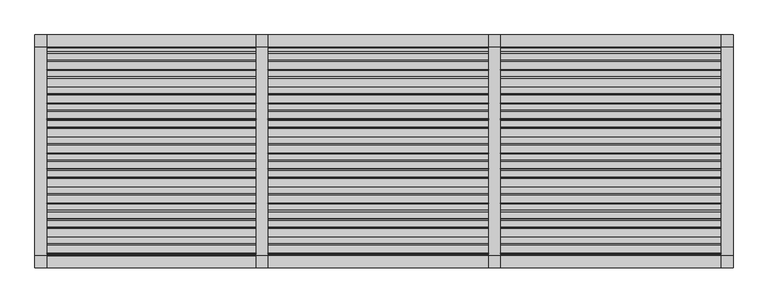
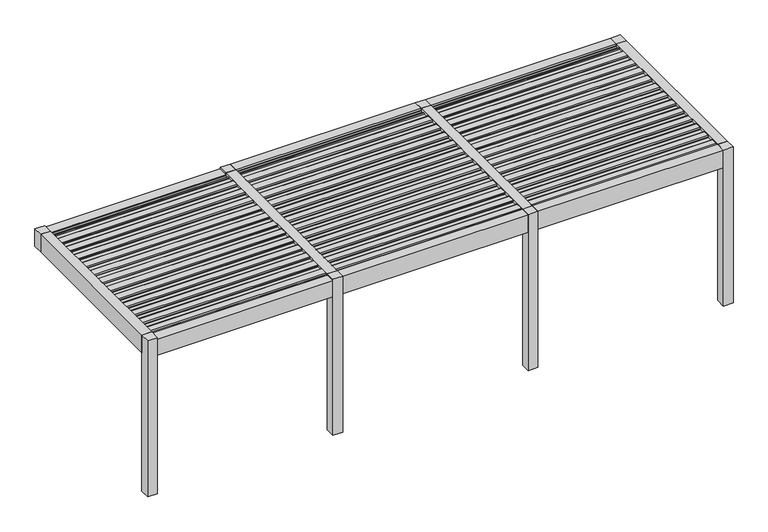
"""IFC4 building model written with IfcOpenShell, lengths in millimetres: proxy geometry, Renson_Amani_Patio_Cover : Renson_Amani_Patio_Cover."""

from ifc_helpers import new_model, si_unit, point, frame, frame_2d, origin, origin_with_axes, place, context, project, spatial, polyline, circle_curve, trimmed, segment, composite_curve, outline, extrude, source, transform, mapped, element, save


def generic_models_2c613ce0(model_context):
    return source(origin(), model_context, "Body", "SweptSolid", [
        extrude(outline(composite_curve([segment(polyline([(-1073.7289238, 2483.35), (-1076.1490335, 2511.01198), (-1104.984284, 2512.3970364), (-1101.5469529, 2531.8911096), (-991.549838, 2526.6075693)]), True, "CONTINUOUS"), segment(trimmed(circle_curve(frame_2d((-992.26951, 2511.6248435)), 15.0), [point((-991.549838, 2526.6075693))], [point((-977.4973937, 2514.2295662))], False, "CARTESIAN"), True, "CONTINUOUS"), segment(polyline([(-977.4973937, 2514.2295662), (-974.1067023, 2495.0), (-886.3709263, 2495.0), (-883.3594689, 2512.0788237), (-868.0824984, 2511.3450182), (-865.6332517, 2483.35), (-1073.7289238, 2483.35)]), True, "CONTINUOUS")], self_intersect=False)), frame((4500.0, 0.0, 0.0), z_axis=(1.0, 0.0, 0.0), x_axis=(0.0, 1.0, 0.0)), (0.0, 0.0, 1.0), 2850.0),
        extrude(outline(composite_curve([segment(polyline([(-858.7132078, 2483.35), (-861.1333174, 2511.01198), (-889.9685679, 2512.3970364), (-886.5312368, 2531.8911096), (-776.534122, 2526.6075693)]), True, "CONTINUOUS"), segment(trimmed(circle_curve(frame_2d((-777.2537939, 2511.6248435)), 15.0), [point((-776.534122, 2526.6075693))], [point((-762.4816776, 2514.2295662))], False, "CARTESIAN"), True, "CONTINUOUS"), segment(polyline([(-762.4816776, 2514.2295662), (-759.0909863, 2495.0), (-671.3552102, 2495.0), (-668.3437528, 2512.0788237), (-653.0667824, 2511.3450182), (-650.6175356, 2483.35), (-858.7132078, 2483.35)]), True, "CONTINUOUS")], self_intersect=False)), frame((4500.0, 0.0, 0.0), z_axis=(1.0, 0.0, 0.0), x_axis=(0.0, 1.0, 0.0)), (0.0, 0.0, 1.0), 2850.0),
        extrude(outline(composite_curve([segment(polyline([(-643.6974917, 2483.35), (-646.1176014, 2511.01198), (-674.9528519, 2512.3970364), (-671.5155208, 2531.8911096), (-561.5184059, 2526.6075693)]), True, "CONTINUOUS"), segment(trimmed(circle_curve(frame_2d((-562.2380779, 2511.6248435)), 15.0), [point((-561.5184059, 2526.6075693))], [point((-547.4659616, 2514.2295662))], False, "CARTESIAN"), True, "CONTINUOUS"), segment(polyline([(-547.4659616, 2514.2295662), (-544.0752702, 2495.0), (-456.3394942, 2495.0), (-453.3280368, 2512.0788237), (-438.0510663, 2511.3450182), (-435.6018196, 2483.35), (-643.6974917, 2483.35)]), True, "CONTINUOUS")], self_intersect=False)), frame((4500.0, 0.0, 0.0), z_axis=(1.0, 0.0, 0.0), x_axis=(0.0, 1.0, 0.0)), (0.0, 0.0, 1.0), 2850.0),
        extrude(outline(composite_curve([segment(polyline([(-428.6817757, 2483.35), (-431.1018854, 2511.01198), (-459.9371358, 2512.3970364), (-456.4998047, 2531.8911096), (-346.5026899, 2526.6075693)]), True, "CONTINUOUS"), segment(trimmed(circle_curve(frame_2d((-347.2223618, 2511.6248435)), 15.0), [point((-346.5026899, 2526.6075693))], [point((-332.4502455, 2514.2295662))], False, "CARTESIAN"), True, "CONTINUOUS"), segment(polyline([(-332.4502455, 2514.2295662), (-329.0595542, 2495.0), (-241.3237782, 2495.0), (-238.3123207, 2512.0788237), (-223.0353503, 2511.3450182), (-220.5861035, 2483.35), (-428.6817757, 2483.35)]), True, "CONTINUOUS")], self_intersect=False)), frame((4500.0, 0.0, 0.0), z_axis=(1.0, 0.0, 0.0), x_axis=(0.0, 1.0, 0.0)), (0.0, 0.0, 1.0), 2850.0),
        extrude(outline(composite_curve([segment(polyline([(-213.6660597, 2483.35), (-216.0861693, 2511.01198), (-244.9214198, 2512.3970364), (-241.4840887, 2531.8911096), (-131.4869738, 2526.6075693)]), True, "CONTINUOUS"), segment(trimmed(circle_curve(frame_2d((-132.2066458, 2511.6248435)), 15.0), [point((-131.4869738, 2526.6075693))], [point((-117.4345295, 2514.2295662))], False, "CARTESIAN"), True, "CONTINUOUS"), segment(polyline([(-117.4345295, 2514.2295662), (-114.0438381, 2495.0), (-26.3080621, 2495.0), (-23.2966047, 2512.0788237), (-8.0196342, 2511.3450182), (-5.5703875, 2483.35), (-213.6660597, 2483.35)]), True, "CONTINUOUS")], self_intersect=False)), frame((4500.0, 0.0, 0.0), z_axis=(1.0, 0.0, 0.0), x_axis=(0.0, 1.0, 0.0)), (0.0, 0.0, 1.0), 2850.0),
        extrude(outline(composite_curve([segment(polyline([(1.3496564, 2483.35), (-1.0704533, 2511.01198), (-29.9057037, 2512.3970364), (-26.4683726, 2531.8911096), (83.5287422, 2526.6075693)]), True, "CONTINUOUS"), segment(trimmed(circle_curve(frame_2d((82.8090703, 2511.6248435)), 15.0), [point((83.5287422, 2526.6075693))], [point((97.5811866, 2514.2295662))], False, "CARTESIAN"), True, "CONTINUOUS"), segment(polyline([(97.5811866, 2514.2295662), (100.9718779, 2495.0), (188.7076539, 2495.0), (191.7191114, 2512.0788237), (206.9960818, 2511.3450182), (209.4453286, 2483.35), (1.3496564, 2483.35)]), True, "CONTINUOUS")], self_intersect=False)), frame((4500.0, 0.0, 0.0), z_axis=(1.0, 0.0, 0.0), x_axis=(0.0, 1.0, 0.0)), (0.0, 0.0, 1.0), 2850.0),
        extrude(outline(composite_curve([segment(polyline([(216.3653724, 2483.35), (213.9452628, 2511.01198), (185.1100123, 2512.3970364), (188.5473434, 2531.8911096), (298.5444582, 2526.6075693)]), True, "CONTINUOUS"), segment(trimmed(circle_curve(frame_2d((297.8247863, 2511.6248435)), 15.0), [point((298.5444582, 2526.6075693))], [point((312.5969026, 2514.2295662))], False, "CARTESIAN"), True, "CONTINUOUS"), segment(polyline([(312.5969026, 2514.2295662), (315.987594, 2495.0), (403.72337, 2495.0), (406.7348274, 2512.0788237), (422.0117979, 2511.3450182), (424.4610446, 2483.35), (216.3653724, 2483.35)]), True, "CONTINUOUS")], self_intersect=False)), frame((4500.0, 0.0, 0.0), z_axis=(1.0, 0.0, 0.0), x_axis=(0.0, 1.0, 0.0)), (0.0, 0.0, 1.0), 2850.0),
        extrude(outline(composite_curve([segment(polyline([(431.3810885, 2483.35), (428.9609788, 2511.01198), (400.1257284, 2512.3970364), (403.5630594, 2531.8911096), (513.5601743, 2526.6075693)]), True, "CONTINUOUS"), segment(trimmed(circle_curve(frame_2d((512.8405024, 2511.6248435)), 15.0), [point((513.5601743, 2526.6075693))], [point((527.6126187, 2514.2295662))], False, "CARTESIAN"), True, "CONTINUOUS"), segment(polyline([(527.6126187, 2514.2295662), (531.00331, 2495.0), (618.739086, 2495.0), (621.7505434, 2512.0788237), (637.0275139, 2511.3450182), (639.4767606, 2483.35), (431.3810885, 2483.35)]), True, "CONTINUOUS")], self_intersect=False)), frame((4500.0, 0.0, 0.0), z_axis=(1.0, 0.0, 0.0), x_axis=(0.0, 1.0, 0.0)), (0.0, 0.0, 1.0), 2850.0),
        extrude(outline(composite_curve([segment(polyline([(646.3968045, 2483.35), (643.9766949, 2511.01198), (615.1414444, 2512.3970364), (618.5787755, 2531.8911096), (728.5758903, 2526.6075693)]), True, "CONTINUOUS"), segment(trimmed(circle_curve(frame_2d((727.8562184, 2511.6248435)), 15.0), [point((728.5758903, 2526.6075693))], [point((742.6283347, 2514.2295662))], False, "CARTESIAN"), True, "CONTINUOUS"), segment(polyline([(742.6283347, 2514.2295662), (746.019026, 2495.0), (833.7548021, 2495.0), (836.7662595, 2512.0788237), (852.04323, 2511.3450182), (854.4924767, 2483.35), (646.3968045, 2483.35)]), True, "CONTINUOUS")], self_intersect=False)), frame((4500.0, 0.0, 0.0), z_axis=(1.0, 0.0, 0.0), x_axis=(0.0, 1.0, 0.0)), (0.0, 0.0, 1.0), 2850.0),
        extrude(outline(composite_curve([segment(polyline([(861.4125206, 2483.35), (858.9924109, 2511.01198), (830.1571605, 2512.3970364), (833.5944915, 2531.8911096), (943.5916064, 2526.6075693)]), True, "CONTINUOUS"), segment(trimmed(circle_curve(frame_2d((942.8719345, 2511.6248435)), 15.0), [point((943.5916064, 2526.6075693))], [point((957.6440508, 2514.2295662))], False, "CARTESIAN"), True, "CONTINUOUS"), segment(polyline([(957.6440508, 2514.2295662), (961.0347421, 2495.0), (1048.7705181, 2495.0), (1051.7819755, 2512.0788237), (1067.058946, 2511.3450182), (1069.5081927, 2483.35), (861.4125206, 2483.35)]), True, "CONTINUOUS")], self_intersect=False)), frame((4500.0, 0.0, 0.0), z_axis=(1.0, 0.0, 0.0), x_axis=(0.0, 1.0, 0.0)), (0.0, 0.0, 1.0), 2850.0),
        extrude(outline(composite_curve([segment(polyline([(-1288.7446399, 2483.35), (-1291.1647495, 2511.01198), (-1320.0, 2512.3970364), (-1316.5626689, 2531.8911096), (-1206.5655541, 2526.6075693)]), True, "CONTINUOUS"), segment(trimmed(circle_curve(frame_2d((-1207.285226, 2511.6248435)), 15.0), [point((-1206.5655541, 2526.6075693))], [point((-1192.5131097, 2514.2295662))], False, "CARTESIAN"), True, "CONTINUOUS"), segment(polyline([(-1192.5131097, 2514.2295662), (-1189.1224184, 2495.0), (-1101.3866423, 2495.0), (-1098.3751849, 2512.0788237), (-1083.0982144, 2511.3450182), (-1080.6489677, 2483.35), (-1288.7446399, 2483.35)]), True, "CONTINUOUS")], self_intersect=False)), frame((4500.0, 0.0, 0.0), z_axis=(1.0, 0.0, 0.0), x_axis=(0.0, 1.0, 0.0)), (0.0, 0.0, 1.0), 2850.0),
        extrude(outline(composite_curve([segment(polyline([(1076.4282366, 2483.35), (1074.008127, 2511.01198), (1045.1728765, 2512.3970364), (1048.6102076, 2531.8911096), (1158.6073224, 2526.6075693)]), True, "CONTINUOUS"), segment(trimmed(circle_curve(frame_2d((1157.8876505, 2511.6248435)), 15.0), [point((1158.6073224, 2526.6075693))], [point((1172.6597668, 2514.2295662))], False, "CARTESIAN"), True, "CONTINUOUS"), segment(polyline([(1172.6597668, 2514.2295662), (1176.0504581, 2495.0), (1263.7862342, 2495.0), (1266.7976916, 2512.0788237), (1282.0746621, 2511.3450182), (1284.5239088, 2483.35), (1076.4282366, 2483.35)]), True, "CONTINUOUS")], self_intersect=False)), frame((4500.0, 0.0, 0.0), z_axis=(1.0, 0.0, 0.0), x_axis=(0.0, 1.0, 0.0)), (0.0, 0.0, 1.0), 2850.0),
        extrude(outline(composite_curve([segment(polyline([(-1073.7289238, 2483.35), (-1076.1490335, 2511.01198), (-1104.984284, 2512.3970364), (-1101.5469529, 2531.8911096), (-991.549838, 2526.6075693)]), True, "CONTINUOUS"), segment(trimmed(circle_curve(frame_2d((-992.26951, 2511.6248435)), 15.0), [point((-991.549838, 2526.6075693))], [point((-977.4973937, 2514.2295662))], False, "CARTESIAN"), True, "CONTINUOUS"), segment(polyline([(-977.4973937, 2514.2295662), (-974.1067023, 2495.0), (-886.3709263, 2495.0), (-883.3594689, 2512.0788237), (-868.0824984, 2511.3450182), (-865.6332517, 2483.35), (-1073.7289238, 2483.35)]), True, "CONTINUOUS")], self_intersect=False)), frame((1500.0, 0.0, 0.0), z_axis=(1.0, 0.0, 0.0), x_axis=(0.0, 1.0, 0.0)), (0.0, 0.0, 1.0), 2850.0),
        extrude(outline(composite_curve([segment(polyline([(-858.7132078, 2483.35), (-861.1333174, 2511.01198), (-889.9685679, 2512.3970364), (-886.5312368, 2531.8911096), (-776.534122, 2526.6075693)]), True, "CONTINUOUS"), segment(trimmed(circle_curve(frame_2d((-777.2537939, 2511.6248435)), 15.0), [point((-776.534122, 2526.6075693))], [point((-762.4816776, 2514.2295662))], False, "CARTESIAN"), True, "CONTINUOUS"), segment(polyline([(-762.4816776, 2514.2295662), (-759.0909863, 2495.0), (-671.3552102, 2495.0), (-668.3437528, 2512.0788237), (-653.0667824, 2511.3450182), (-650.6175356, 2483.35), (-858.7132078, 2483.35)]), True, "CONTINUOUS")], self_intersect=False)), frame((1500.0, 0.0, 0.0), z_axis=(1.0, 0.0, 0.0), x_axis=(0.0, 1.0, 0.0)), (0.0, 0.0, 1.0), 2850.0),
        extrude(outline(composite_curve([segment(polyline([(-643.6974917, 2483.35), (-646.1176014, 2511.01198), (-674.9528519, 2512.3970364), (-671.5155208, 2531.8911096), (-561.5184059, 2526.6075693)]), True, "CONTINUOUS"), segment(trimmed(circle_curve(frame_2d((-562.2380779, 2511.6248435)), 15.0), [point((-561.5184059, 2526.6075693))], [point((-547.4659616, 2514.2295662))], False, "CARTESIAN"), True, "CONTINUOUS"), segment(polyline([(-547.4659616, 2514.2295662), (-544.0752702, 2495.0), (-456.3394942, 2495.0), (-453.3280368, 2512.0788237), (-438.0510663, 2511.3450182), (-435.6018196, 2483.35), (-643.6974917, 2483.35)]), True, "CONTINUOUS")], self_intersect=False)), frame((1500.0, 0.0, 0.0), z_axis=(1.0, 0.0, 0.0), x_axis=(0.0, 1.0, 0.0)), (0.0, 0.0, 1.0), 2850.0),
        extrude(outline(composite_curve([segment(polyline([(-428.6817757, 2483.35), (-431.1018854, 2511.01198), (-459.9371358, 2512.3970364), (-456.4998047, 2531.8911096), (-346.5026899, 2526.6075693)]), True, "CONTINUOUS"), segment(trimmed(circle_curve(frame_2d((-347.2223618, 2511.6248435)), 15.0), [point((-346.5026899, 2526.6075693))], [point((-332.4502455, 2514.2295662))], False, "CARTESIAN"), True, "CONTINUOUS"), segment(polyline([(-332.4502455, 2514.2295662), (-329.0595542, 2495.0), (-241.3237782, 2495.0), (-238.3123207, 2512.0788237), (-223.0353503, 2511.3450182), (-220.5861035, 2483.35), (-428.6817757, 2483.35)]), True, "CONTINUOUS")], self_intersect=False)), frame((1500.0, 0.0, 0.0), z_axis=(1.0, 0.0, 0.0), x_axis=(0.0, 1.0, 0.0)), (0.0, 0.0, 1.0), 2850.0),
        extrude(outline(composite_curve([segment(polyline([(-213.6660597, 2483.35), (-216.0861693, 2511.01198), (-244.9214198, 2512.3970364), (-241.4840887, 2531.8911096), (-131.4869738, 2526.6075693)]), True, "CONTINUOUS"), segment(trimmed(circle_curve(frame_2d((-132.2066458, 2511.6248435)), 15.0), [point((-131.4869738, 2526.6075693))], [point((-117.4345295, 2514.2295662))], False, "CARTESIAN"), True, "CONTINUOUS"), segment(polyline([(-117.4345295, 2514.2295662), (-114.0438381, 2495.0), (-26.3080621, 2495.0), (-23.2966047, 2512.0788237), (-8.0196342, 2511.3450182), (-5.5703875, 2483.35), (-213.6660597, 2483.35)]), True, "CONTINUOUS")], self_intersect=False)), frame((1500.0, 0.0, 0.0), z_axis=(1.0, 0.0, 0.0), x_axis=(0.0, 1.0, 0.0)), (0.0, 0.0, 1.0), 2850.0),
        extrude(outline(composite_curve([segment(polyline([(1.3496564, 2483.35), (-1.0704533, 2511.01198), (-29.9057037, 2512.3970364), (-26.4683726, 2531.8911096), (83.5287422, 2526.6075693)]), True, "CONTINUOUS"), segment(trimmed(circle_curve(frame_2d((82.8090703, 2511.6248435)), 15.0), [point((83.5287422, 2526.6075693))], [point((97.5811866, 2514.2295662))], False, "CARTESIAN"), True, "CONTINUOUS"), segment(polyline([(97.5811866, 2514.2295662), (100.9718779, 2495.0), (188.7076539, 2495.0), (191.7191114, 2512.0788237), (206.9960818, 2511.3450182), (209.4453286, 2483.35), (1.3496564, 2483.35)]), True, "CONTINUOUS")], self_intersect=False)), frame((1500.0, 0.0, 0.0), z_axis=(1.0, 0.0, 0.0), x_axis=(0.0, 1.0, 0.0)), (0.0, 0.0, 1.0), 2850.0),
        extrude(outline(composite_curve([segment(polyline([(216.3653724, 2483.35), (213.9452628, 2511.01198), (185.1100123, 2512.3970364), (188.5473434, 2531.8911096), (298.5444582, 2526.6075693)]), True, "CONTINUOUS"), segment(trimmed(circle_curve(frame_2d((297.8247863, 2511.6248435)), 15.0), [point((298.5444582, 2526.6075693))], [point((312.5969026, 2514.2295662))], False, "CARTESIAN"), True, "CONTINUOUS"), segment(polyline([(312.5969026, 2514.2295662), (315.987594, 2495.0), (403.72337, 2495.0), (406.7348274, 2512.0788237), (422.0117979, 2511.3450182), (424.4610446, 2483.35), (216.3653724, 2483.35)]), True, "CONTINUOUS")], self_intersect=False)), frame((1500.0, 0.0, 0.0), z_axis=(1.0, 0.0, 0.0), x_axis=(0.0, 1.0, 0.0)), (0.0, 0.0, 1.0), 2850.0),
        extrude(outline(composite_curve([segment(polyline([(431.3810885, 2483.35), (428.9609788, 2511.01198), (400.1257284, 2512.3970364), (403.5630594, 2531.8911096), (513.5601743, 2526.6075693)]), True, "CONTINUOUS"), segment(trimmed(circle_curve(frame_2d((512.8405024, 2511.6248435)), 15.0), [point((513.5601743, 2526.6075693))], [point((527.6126187, 2514.2295662))], False, "CARTESIAN"), True, "CONTINUOUS"), segment(polyline([(527.6126187, 2514.2295662), (531.00331, 2495.0), (618.739086, 2495.0), (621.7505434, 2512.0788237), (637.0275139, 2511.3450182), (639.4767606, 2483.35), (431.3810885, 2483.35)]), True, "CONTINUOUS")], self_intersect=False)), frame((1500.0, 0.0, 0.0), z_axis=(1.0, 0.0, 0.0), x_axis=(0.0, 1.0, 0.0)), (0.0, 0.0, 1.0), 2850.0),
        extrude(outline(composite_curve([segment(polyline([(646.3968045, 2483.35), (643.9766949, 2511.01198), (615.1414444, 2512.3970364), (618.5787755, 2531.8911096), (728.5758903, 2526.6075693)]), True, "CONTINUOUS"), segment(trimmed(circle_curve(frame_2d((727.8562184, 2511.6248435)), 15.0), [point((728.5758903, 2526.6075693))], [point((742.6283347, 2514.2295662))], False, "CARTESIAN"), True, "CONTINUOUS"), segment(polyline([(742.6283347, 2514.2295662), (746.019026, 2495.0), (833.7548021, 2495.0), (836.7662595, 2512.0788237), (852.04323, 2511.3450182), (854.4924767, 2483.35), (646.3968045, 2483.35)]), True, "CONTINUOUS")], self_intersect=False)), frame((1500.0, 0.0, 0.0), z_axis=(1.0, 0.0, 0.0), x_axis=(0.0, 1.0, 0.0)), (0.0, 0.0, 1.0), 2850.0),
        extrude(outline(composite_curve([segment(polyline([(861.4125206, 2483.35), (858.9924109, 2511.01198), (830.1571605, 2512.3970364), (833.5944915, 2531.8911096), (943.5916064, 2526.6075693)]), True, "CONTINUOUS"), segment(trimmed(circle_curve(frame_2d((942.8719345, 2511.6248435)), 15.0), [point((943.5916064, 2526.6075693))], [point((957.6440508, 2514.2295662))], False, "CARTESIAN"), True, "CONTINUOUS"), segment(polyline([(957.6440508, 2514.2295662), (961.0347421, 2495.0), (1048.7705181, 2495.0), (1051.7819755, 2512.0788237), (1067.058946, 2511.3450182), (1069.5081927, 2483.35), (861.4125206, 2483.35)]), True, "CONTINUOUS")], self_intersect=False)), frame((1500.0, 0.0, 0.0), z_axis=(1.0, 0.0, 0.0), x_axis=(0.0, 1.0, 0.0)), (0.0, 0.0, 1.0), 2850.0),
        extrude(outline(composite_curve([segment(polyline([(-1288.7446399, 2483.35), (-1291.1647495, 2511.01198), (-1320.0, 2512.3970364), (-1316.5626689, 2531.8911096), (-1206.5655541, 2526.6075693)]), True, "CONTINUOUS"), segment(trimmed(circle_curve(frame_2d((-1207.285226, 2511.6248435)), 15.0), [point((-1206.5655541, 2526.6075693))], [point((-1192.5131097, 2514.2295662))], False, "CARTESIAN"), True, "CONTINUOUS"), segment(polyline([(-1192.5131097, 2514.2295662), (-1189.1224184, 2495.0), (-1101.3866423, 2495.0), (-1098.3751849, 2512.0788237), (-1083.0982144, 2511.3450182), (-1080.6489677, 2483.35), (-1288.7446399, 2483.35)]), True, "CONTINUOUS")], self_intersect=False)), frame((1500.0, 0.0, 0.0), z_axis=(1.0, 0.0, 0.0), x_axis=(0.0, 1.0, 0.0)), (0.0, 0.0, 1.0), 2850.0),
        extrude(outline(composite_curve([segment(polyline([(1076.4282366, 2483.35), (1074.008127, 2511.01198), (1045.1728765, 2512.3970364), (1048.6102076, 2531.8911096), (1158.6073224, 2526.6075693)]), True, "CONTINUOUS"), segment(trimmed(circle_curve(frame_2d((1157.8876505, 2511.6248435)), 15.0), [point((1158.6073224, 2526.6075693))], [point((1172.6597668, 2514.2295662))], False, "CARTESIAN"), True, "CONTINUOUS"), segment(polyline([(1172.6597668, 2514.2295662), (1176.0504581, 2495.0), (1263.7862342, 2495.0), (1266.7976916, 2512.0788237), (1282.0746621, 2511.3450182), (1284.5239088, 2483.35), (1076.4282366, 2483.35)]), True, "CONTINUOUS")], self_intersect=False)), frame((1500.0, 0.0, 0.0), z_axis=(1.0, 0.0, 0.0), x_axis=(0.0, 1.0, 0.0)), (0.0, 0.0, 1.0), 2850.0),
        extrude(outline(composite_curve([segment(polyline([(-1073.7289238, 2483.35), (-1076.1490335, 2511.01198), (-1104.984284, 2512.3970364), (-1101.5469529, 2531.8911096), (-991.549838, 2526.6075693)]), True, "CONTINUOUS"), segment(trimmed(circle_curve(frame_2d((-992.26951, 2511.6248435)), 15.0), [point((-991.549838, 2526.6075693))], [point((-977.4973937, 2514.2295662))], False, "CARTESIAN"), True, "CONTINUOUS"), segment(polyline([(-977.4973937, 2514.2295662), (-974.1067023, 2495.0), (-886.3709263, 2495.0), (-883.3594689, 2512.0788237), (-868.0824984, 2511.3450182), (-865.6332517, 2483.35), (-1073.7289238, 2483.35)]), True, "CONTINUOUS")], self_intersect=False)), frame((-1350.0, 0.0, 0.0), z_axis=(1.0, 0.0, 0.0), x_axis=(0.0, 1.0, 0.0)), (0.0, 0.0, 1.0), 2700.0),
        extrude(outline(composite_curve([segment(polyline([(-858.7132078, 2483.35), (-861.1333174, 2511.01198), (-889.9685679, 2512.3970364), (-886.5312368, 2531.8911096), (-776.534122, 2526.6075693)]), True, "CONTINUOUS"), segment(trimmed(circle_curve(frame_2d((-777.2537939, 2511.6248435)), 15.0), [point((-776.534122, 2526.6075693))], [point((-762.4816776, 2514.2295662))], False, "CARTESIAN"), True, "CONTINUOUS"), segment(polyline([(-762.4816776, 2514.2295662), (-759.0909863, 2495.0), (-671.3552102, 2495.0), (-668.3437528, 2512.0788237), (-653.0667824, 2511.3450182), (-650.6175356, 2483.35), (-858.7132078, 2483.35)]), True, "CONTINUOUS")], self_intersect=False)), frame((-1350.0, 0.0, 0.0), z_axis=(1.0, 0.0, 0.0), x_axis=(0.0, 1.0, 0.0)), (0.0, 0.0, 1.0), 2700.0),
        extrude(outline(composite_curve([segment(polyline([(-643.6974917, 2483.35), (-646.1176014, 2511.01198), (-674.9528519, 2512.3970364), (-671.5155208, 2531.8911096), (-561.5184059, 2526.6075693)]), True, "CONTINUOUS"), segment(trimmed(circle_curve(frame_2d((-562.2380779, 2511.6248435)), 15.0), [point((-561.5184059, 2526.6075693))], [point((-547.4659616, 2514.2295662))], False, "CARTESIAN"), True, "CONTINUOUS"), segment(polyline([(-547.4659616, 2514.2295662), (-544.0752702, 2495.0), (-456.3394942, 2495.0), (-453.3280368, 2512.0788237), (-438.0510663, 2511.3450182), (-435.6018196, 2483.35), (-643.6974917, 2483.35)]), True, "CONTINUOUS")], self_intersect=False)), frame((-1350.0, 0.0, 0.0), z_axis=(1.0, 0.0, 0.0), x_axis=(0.0, 1.0, 0.0)), (0.0, 0.0, 1.0), 2700.0),
        extrude(outline(composite_curve([segment(polyline([(-428.6817757, 2483.35), (-431.1018854, 2511.01198), (-459.9371358, 2512.3970364), (-456.4998047, 2531.8911096), (-346.5026899, 2526.6075693)]), True, "CONTINUOUS"), segment(trimmed(circle_curve(frame_2d((-347.2223618, 2511.6248435)), 15.0), [point((-346.5026899, 2526.6075693))], [point((-332.4502455, 2514.2295662))], False, "CARTESIAN"), True, "CONTINUOUS"), segment(polyline([(-332.4502455, 2514.2295662), (-329.0595542, 2495.0), (-241.3237782, 2495.0), (-238.3123207, 2512.0788237), (-223.0353503, 2511.3450182), (-220.5861035, 2483.35), (-428.6817757, 2483.35)]), True, "CONTINUOUS")], self_intersect=False)), frame((-1350.0, 0.0, 0.0), z_axis=(1.0, 0.0, 0.0), x_axis=(0.0, 1.0, 0.0)), (0.0, 0.0, 1.0), 2700.0),
        extrude(outline(composite_curve([segment(polyline([(-213.6660597, 2483.35), (-216.0861693, 2511.01198), (-244.9214198, 2512.3970364), (-241.4840887, 2531.8911096), (-131.4869738, 2526.6075693)]), True, "CONTINUOUS"), segment(trimmed(circle_curve(frame_2d((-132.2066458, 2511.6248435)), 15.0), [point((-131.4869738, 2526.6075693))], [point((-117.4345295, 2514.2295662))], False, "CARTESIAN"), True, "CONTINUOUS"), segment(polyline([(-117.4345295, 2514.2295662), (-114.0438381, 2495.0), (-26.3080621, 2495.0), (-23.2966047, 2512.0788237), (-8.0196342, 2511.3450182), (-5.5703875, 2483.35), (-213.6660597, 2483.35)]), True, "CONTINUOUS")], self_intersect=False)), frame((-1350.0, 0.0, 0.0), z_axis=(1.0, 0.0, 0.0), x_axis=(0.0, 1.0, 0.0)), (0.0, 0.0, 1.0), 2700.0),
        extrude(outline(composite_curve([segment(polyline([(1.3496564, 2483.35), (-1.0704533, 2511.01198), (-29.9057037, 2512.3970364), (-26.4683726, 2531.8911096), (83.5287422, 2526.6075693)]), True, "CONTINUOUS"), segment(trimmed(circle_curve(frame_2d((82.8090703, 2511.6248435)), 15.0), [point((83.5287422, 2526.6075693))], [point((97.5811866, 2514.2295662))], False, "CARTESIAN"), True, "CONTINUOUS"), segment(polyline([(97.5811866, 2514.2295662), (100.9718779, 2495.0), (188.7076539, 2495.0), (191.7191114, 2512.0788237), (206.9960818, 2511.3450182), (209.4453286, 2483.35), (1.3496564, 2483.35)]), True, "CONTINUOUS")], self_intersect=False)), frame((-1350.0, 0.0, 0.0), z_axis=(1.0, 0.0, 0.0), x_axis=(0.0, 1.0, 0.0)), (0.0, 0.0, 1.0), 2700.0),
        extrude(outline(composite_curve([segment(polyline([(216.3653724, 2483.35), (213.9452628, 2511.01198), (185.1100123, 2512.3970364), (188.5473434, 2531.8911096), (298.5444582, 2526.6075693)]), True, "CONTINUOUS"), segment(trimmed(circle_curve(frame_2d((297.8247863, 2511.6248435)), 15.0), [point((298.5444582, 2526.6075693))], [point((312.5969026, 2514.2295662))], False, "CARTESIAN"), True, "CONTINUOUS"), segment(polyline([(312.5969026, 2514.2295662), (315.987594, 2495.0), (403.72337, 2495.0), (406.7348274, 2512.0788237), (422.0117979, 2511.3450182), (424.4610446, 2483.35), (216.3653724, 2483.35)]), True, "CONTINUOUS")], self_intersect=False)), frame((-1350.0, 0.0, 0.0), z_axis=(1.0, 0.0, 0.0), x_axis=(0.0, 1.0, 0.0)), (0.0, 0.0, 1.0), 2700.0),
        extrude(outline(composite_curve([segment(polyline([(431.3810885, 2483.35), (428.9609788, 2511.01198), (400.1257284, 2512.3970364), (403.5630594, 2531.8911096), (513.5601743, 2526.6075693)]), True, "CONTINUOUS"), segment(trimmed(circle_curve(frame_2d((512.8405024, 2511.6248435)), 15.0), [point((513.5601743, 2526.6075693))], [point((527.6126187, 2514.2295662))], False, "CARTESIAN"), True, "CONTINUOUS"), segment(polyline([(527.6126187, 2514.2295662), (531.00331, 2495.0), (618.739086, 2495.0), (621.7505434, 2512.0788237), (637.0275139, 2511.3450182), (639.4767606, 2483.35), (431.3810885, 2483.35)]), True, "CONTINUOUS")], self_intersect=False)), frame((-1350.0, 0.0, 0.0), z_axis=(1.0, 0.0, 0.0), x_axis=(0.0, 1.0, 0.0)), (0.0, 0.0, 1.0), 2700.0),
        extrude(outline(composite_curve([segment(polyline([(646.3968045, 2483.35), (643.9766949, 2511.01198), (615.1414444, 2512.3970364), (618.5787755, 2531.8911096), (728.5758903, 2526.6075693)]), True, "CONTINUOUS"), segment(trimmed(circle_curve(frame_2d((727.8562184, 2511.6248435)), 15.0), [point((728.5758903, 2526.6075693))], [point((742.6283347, 2514.2295662))], False, "CARTESIAN"), True, "CONTINUOUS"), segment(polyline([(742.6283347, 2514.2295662), (746.019026, 2495.0), (833.7548021, 2495.0), (836.7662595, 2512.0788237), (852.04323, 2511.3450182), (854.4924767, 2483.35), (646.3968045, 2483.35)]), True, "CONTINUOUS")], self_intersect=False)), frame((-1350.0, 0.0, 0.0), z_axis=(1.0, 0.0, 0.0), x_axis=(0.0, 1.0, 0.0)), (0.0, 0.0, 1.0), 2700.0),
        extrude(outline(composite_curve([segment(polyline([(861.4125206, 2483.35), (858.9924109, 2511.01198), (830.1571605, 2512.3970364), (833.5944915, 2531.8911096), (943.5916064, 2526.6075693)]), True, "CONTINUOUS"), segment(trimmed(circle_curve(frame_2d((942.8719345, 2511.6248435)), 15.0), [point((943.5916064, 2526.6075693))], [point((957.6440508, 2514.2295662))], False, "CARTESIAN"), True, "CONTINUOUS"), segment(polyline([(957.6440508, 2514.2295662), (961.0347421, 2495.0), (1048.7705181, 2495.0), (1051.7819755, 2512.0788237), (1067.058946, 2511.3450182), (1069.5081927, 2483.35), (861.4125206, 2483.35)]), True, "CONTINUOUS")], self_intersect=False)), frame((-1350.0, 0.0, 0.0), z_axis=(1.0, 0.0, 0.0), x_axis=(0.0, 1.0, 0.0)), (0.0, 0.0, 1.0), 2700.0),
        extrude(outline(composite_curve([segment(polyline([(-1288.7446399, 2483.35), (-1291.1647495, 2511.01198), (-1320.0, 2512.3970364), (-1316.5626689, 2531.8911096), (-1206.5655541, 2526.6075693)]), True, "CONTINUOUS"), segment(trimmed(circle_curve(frame_2d((-1207.285226, 2511.6248435)), 15.0), [point((-1206.5655541, 2526.6075693))], [point((-1192.5131097, 2514.2295662))], False, "CARTESIAN"), True, "CONTINUOUS"), segment(polyline([(-1192.5131097, 2514.2295662), (-1189.1224184, 2495.0), (-1101.3866423, 2495.0), (-1098.3751849, 2512.0788237), (-1083.0982144, 2511.3450182), (-1080.6489677, 2483.35), (-1288.7446399, 2483.35)]), True, "CONTINUOUS")], self_intersect=False)), frame((-1350.0, 0.0, 0.0), z_axis=(1.0, 0.0, 0.0), x_axis=(0.0, 1.0, 0.0)), (0.0, 0.0, 1.0), 2700.0),
        extrude(outline(composite_curve([segment(polyline([(1076.4282366, 2483.35), (1074.008127, 2511.01198), (1045.1728765, 2512.3970364), (1048.6102076, 2531.8911096), (1158.6073224, 2526.6075693)]), True, "CONTINUOUS"), segment(trimmed(circle_curve(frame_2d((1157.8876505, 2511.6248435)), 15.0), [point((1158.6073224, 2526.6075693))], [point((1172.6597668, 2514.2295662))], False, "CARTESIAN"), True, "CONTINUOUS"), segment(polyline([(1172.6597668, 2514.2295662), (1176.0504581, 2495.0), (1263.7862342, 2495.0), (1266.7976916, 2512.0788237), (1282.0746621, 2511.3450182), (1284.5239088, 2483.35), (1076.4282366, 2483.35)]), True, "CONTINUOUS")], self_intersect=False)), frame((-1350.0, 0.0, 0.0), z_axis=(1.0, 0.0, 0.0), x_axis=(0.0, 1.0, 0.0)), (0.0, 0.0, 1.0), 2700.0),
        extrude(outline(polyline([(7500.0, -1350.0), (7500.0, -1500.0), (7350.0, -1500.0), (7350.0, -1350.0), (7500.0, -1350.0)])), origin_with_axes(), (0.0, 0.0, 1.0), 2535.0),
        extrude(outline(polyline([(7500.0, 1500.0), (7500.0, 1350.0), (7350.0, 1350.0), (7350.0, 1500.0), (7500.0, 1500.0)])), frame((0.0, 0.0, 2250.0), z_axis=(0.0, 0.0, 1.0), x_axis=(1.0, 0.0, 0.0)), (0.0, 0.0, 1.0), 285.0),
        extrude(outline(polyline([(4500.0, 1350.0), (4350.0, 1350.0), (4350.0, 1500.0), (4500.0, 1500.0), (4500.0, 1350.0)])), frame((0.0, 0.0, 2250.0), z_axis=(0.0, 0.0, 1.0), x_axis=(1.0, 0.0, 0.0)), (0.0, 0.0, 1.0), 285.0),
        extrude(outline(polyline([(1500.0, 1500.0), (1500.0, 1350.0), (1350.0, 1350.0), (1350.0, 1500.0), (1500.0, 1500.0)])), frame((0.0, 0.0, 2250.0), z_axis=(0.0, 0.0, 1.0), x_axis=(1.0, 0.0, 0.0)), (0.0, 0.0, 1.0), 285.0),
        extrude(outline(polyline([(-1350.0, 1500.0), (-1350.0, 1350.0), (-1500.0, 1350.0), (-1500.0, 1500.0), (-1350.0, 1500.0)])), frame((0.0, 0.0, 2250.0), z_axis=(0.0, 0.0, 1.0), x_axis=(1.0, 0.0, 0.0)), (0.0, 0.0, 1.0), 285.0),
        extrude(outline(polyline([(4500.0, -1350.0), (4500.0, -1500.0), (4350.0, -1500.0), (4350.0, -1350.0), (4500.0, -1350.0)])), origin_with_axes(), (0.0, 0.0, 1.0), 2535.0),
        extrude(outline(polyline([(1500.0, -1350.0), (1500.0, -1500.0), (1350.0, -1500.0), (1350.0, -1350.0), (1500.0, -1350.0)])), origin_with_axes(), (0.0, 0.0, 1.0), 2535.0),
        extrude(outline(polyline([(-1350.0, -1350.0), (-1350.0, -1500.0), (-1500.0, -1500.0), (-1500.0, -1350.0), (-1350.0, -1350.0)])), origin_with_axes(), (0.0, 0.0, 1.0), 2535.0),
        extrude(outline(polyline([(1350.0, 2466.6559373), (1290.0, 2466.6559373), (1286.2487113, 2480.6555802), (1329.5940945, 2480.6555802), (1345.0, 2496.400763), (1345.0, 2504.2449277), (1350.0, 2504.6823598), (1350.0, 2466.6559373)])), frame((4500.0, 0.0, 0.0), z_axis=(1.0, 0.0, 0.0), x_axis=(0.0, 1.0, 0.0)), (0.0, 0.0, 1.0), 2850.0),
        extrude(outline(polyline([(-1350.0, 2504.6823598), (-1345.0, 2504.2449277), (-1345.0, 2496.400763), (-1329.2544156, 2480.6555802), (-1319.9090324, 2480.6555802), (-1323.6603211, 2466.6559373), (-1350.0, 2466.6559373), (-1350.0, 2250.0), (-1500.0, 2250.0), (-1500.0, 2535.0), (-1350.0, 2535.0), (-1350.0, 2504.6823598)])), frame((4500.0, 0.0, 0.0), z_axis=(1.0, 0.0, 0.0), x_axis=(0.0, 1.0, 0.0)), (0.0, 0.0, 1.0), 2850.0),
        extrude(outline(polyline([(7350.0, 1500.0), (7350.0, 1350.0), (4500.0, 1350.0), (4500.0, 1500.0), (7350.0, 1500.0)])), frame((0.0, 0.0, 2250.0), z_axis=(0.0, 0.0, 1.0), x_axis=(1.0, 0.0, 0.0)), (0.0, 0.0, 1.0), 285.0),
        extrude(outline(polyline([(2535.0, 4350.0), (2322.0, 4350.0), (2322.0, 4280.0000001), (2250.0, 4280.0000001), (2250.0, 4569.9999999), (2322.0, 4569.9999999), (2322.0, 4500.0), (2535.0, 4500.0), (2535.0, 4350.0)])), frame((0.0, -1350.0, 0.0), z_axis=(0.0, 1.0, 0.0), x_axis=(0.0, 0.0, 1.0)), (0.0, 0.0, 1.0), 2700.0),
        extrude(outline(polyline([(2535.0, 7350.0), (2322.0, 7350.0), (2322.0, 7280.0000001), (2250.0, 7280.0000001), (2250.0, 7500.0), (2535.0, 7500.0), (2535.0, 7350.0)])), frame((0.0, -1350.0, 0.0), z_axis=(0.0, 1.0, 0.0), x_axis=(0.0, 0.0, 1.0)), (0.0, 0.0, 1.0), 2700.0),
        extrude(outline(polyline([(1350.0, 2466.6559373), (1290.0, 2466.6559373), (1286.2487113, 2480.6555802), (1329.5940945, 2480.6555802), (1345.0, 2496.400763), (1345.0, 2504.2449277), (1350.0, 2504.6823598), (1350.0, 2466.6559373)])), frame((1500.0, 0.0, 0.0), z_axis=(1.0, 0.0, 0.0), x_axis=(0.0, 1.0, 0.0)), (0.0, 0.0, 1.0), 2850.0),
        extrude(outline(polyline([(4350.0, 1500.0), (4350.0, 1350.0), (1500.0, 1350.0), (1500.0, 1500.0), (4350.0, 1500.0)])), frame((0.0, 0.0, 2250.0), z_axis=(0.0, 0.0, 1.0), x_axis=(1.0, 0.0, 0.0)), (0.0, 0.0, 1.0), 285.0),
        extrude(outline(polyline([(-1350.0, 2250.0), (-1500.0, 2250.0), (-1500.0, 2535.0), (-1350.0, 2535.0), (-1350.0, 2504.6823598), (-1345.0, 2504.2449277), (-1345.0, 2496.400763), (-1329.2544156, 2480.6555802), (-1319.9090324, 2480.6555802), (-1323.6603211, 2466.6559373), (-1350.0, 2466.6559373), (-1350.0, 2250.0)])), frame((1500.0, 0.0, 0.0), z_axis=(1.0, 0.0, 0.0), x_axis=(0.0, 1.0, 0.0)), (0.0, 0.0, 1.0), 2850.0),
        extrude(outline(polyline([(2535.0, 1350.0), (2322.0, 1350.0), (2322.0, 1280.0000001), (2250.0, 1280.0000001), (2250.0, 1569.9999999), (2322.0, 1569.9999999), (2322.0, 1500.0), (2535.0, 1500.0), (2535.0, 1350.0)])), frame((0.0, -1350.0, 0.0), z_axis=(0.0, 1.0, 0.0), x_axis=(0.0, 0.0, 1.0)), (0.0, 0.0, 1.0), 2700.0),
        extrude(outline(polyline([(2535.0, 4350.0), (2322.0, 4350.0), (2322.0, 4280.0000001), (2250.0, 4280.0000001), (2250.0, 4500.0), (2535.0, 4500.0), (2535.0, 4350.0)])), frame((0.0, -1350.0, 0.0), z_axis=(0.0, 1.0, 0.0), x_axis=(0.0, 0.0, 1.0)), (0.0, 0.0, 1.0), 2700.0),
        extrude(outline(polyline([(1350.0, 2466.6559373), (1290.0, 2466.6559373), (1286.2487113, 2480.6555802), (1329.5940945, 2480.6555802), (1345.0, 2496.400763), (1345.0, 2504.2449277), (1350.0, 2504.6823598), (1350.0, 2466.6559373)])), frame((-1350.0, 0.0, 0.0), z_axis=(1.0, 0.0, 0.0), x_axis=(0.0, 1.0, 0.0)), (0.0, 0.0, 1.0), 2700.0),
        extrude(outline(polyline([(-1350.0, 2510.0), (-1350.0, 2479.6823598), (-1345.0, 2479.2449277), (-1345.0, 2471.400763), (-1329.2544156, 2455.6555802), (-1319.9090324, 2455.6555802), (-1323.6603211, 2441.6559373), (-1350.0, 2441.6559373), (-1350.0, 2250.0), (-1500.0, 2250.0), (-1500.0, 2510.0), (-1350.0, 2510.0)])), frame((-1350.0, 0.0, 0.0), z_axis=(1.0, 0.0, 0.0), x_axis=(0.0, 1.0, 0.0)), (0.0, 0.0, 1.0), 2700.0),
        extrude(outline(polyline([(1350.0, 1500.0), (1350.0, 1350.0), (-1350.0, 1350.0), (-1350.0, 1500.0), (1350.0, 1500.0)])), frame((0.0, 0.0, 2250.0), z_axis=(0.0, 0.0, 1.0), x_axis=(1.0, 0.0, 0.0)), (0.0, 0.0, 1.0), 260.0),
        extrude(outline(polyline([(2535.0, -1350.0), (2535.0, -1500.0), (2250.0, -1500.0), (2250.0, -1280.0000001), (2322.0, -1280.0000001), (2322.0, -1350.0), (2535.0, -1350.0)])), frame((0.0, -1350.0, 0.0), z_axis=(0.0, 1.0, 0.0), x_axis=(0.0, 0.0, 1.0)), (0.0, 0.0, 1.0), 2700.0),
        extrude(outline(polyline([(2250.0, 1500.0), (2535.0, 1500.0), (2535.0, 1350.0), (2322.0, 1350.0), (2322.0, 1280.0000001), (2250.0, 1280.0000001), (2250.0, 1500.0)])), frame((0.0, -1350.0, 0.0), z_axis=(0.0, 1.0, 0.0), x_axis=(0.0, 0.0, 1.0)), (0.0, 0.0, 1.0), 2700.0),
    ])


if __name__ == "__main__":
    model = new_model("IFC4")
    model_context = context("Model", 3, world=origin())
    ifc_project = project(units=[si_unit("LENGTHUNIT", "METRE", prefix="MILLI")], contexts=[model_context])
    site = spatial("IfcSite", under=ifc_project)
    building = spatial("IfcBuilding", under=site)
    placement = place(None, origin())
    generic_models_shape = generic_models_2c613ce0(model_context)
    element("IfcBuildingElementProxy", 1, Name="Renson_Amani_Patio_Cover : Renson_Amani_Patio_Cover", ObjectType="Renson_Amani_Patio_Cover : Renson_Amani_Patio_Cover", at=placement, inside=building, context=model_context, shape_type="MappedRepresentation", body=[
        mapped(generic_models_shape, transform((0.0, 0.0, 0.0), x_axis=(1.0, 0.0, 0.0), y_axis=(0.0, 1.0, 0.0), z_axis=(0.0, 0.0, 1.0))),
    ])
    save(model, "model.ifc")
